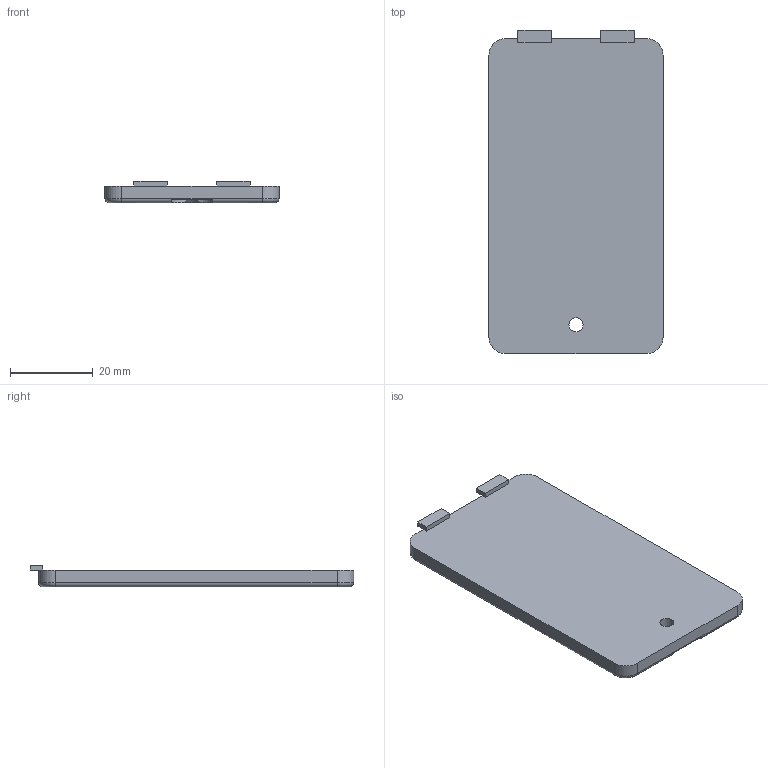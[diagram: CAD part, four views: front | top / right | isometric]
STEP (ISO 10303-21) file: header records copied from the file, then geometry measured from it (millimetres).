
FILE_DESCRIPTION(('Open CASCADE Model'),'2;1');
FILE_NAME('Open CASCADE Shape Model','2026-11-01T16:28:02',('Author'),( 'Open CASCADE'),'Open CASCADE STEP processor 8.0','build123d', 'Unknown');
FILE_SCHEMA(('AUTOMOTIVE_DESIGN { 1 0 10303 214 1 1 1 1 }'));
Length unit declared in the file: millimetre
Products named in the file (1): COMPOUND
Bounding box: 42 x 78 x 5.2 mm (x, y, z)
Volume: 12641.1 mm3; surface area: 7313.5 mm2
Topology: 1 solids, 1 shells, 35 faces, 89 edges, 55 vertices
Faces by surface type: plane 19, cylinder 11, torus 4, cone 1
Full cylindrical faces by diameter (mm): 3.4 x1
Entity records: 2315 total; most frequent: CARTESIAN_POINT 526, DIRECTION 334, LINE 192, VECTOR 192, ORIENTED_EDGE 178, PCURVE 178, DEFINITIONAL_REPRESENTATION 178, EDGE_CURVE 89
